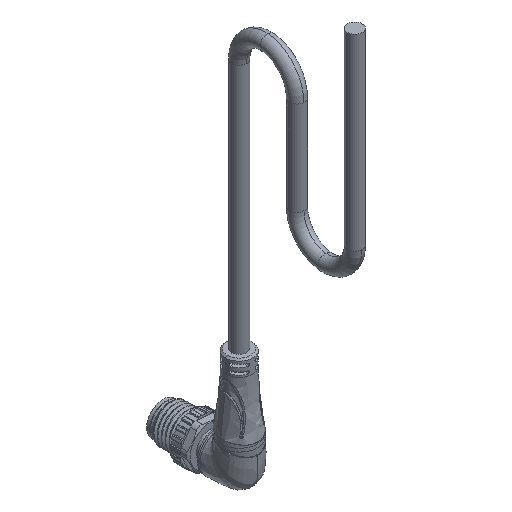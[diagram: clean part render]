
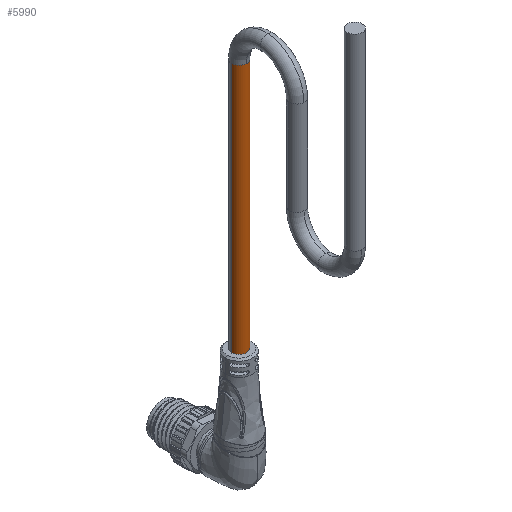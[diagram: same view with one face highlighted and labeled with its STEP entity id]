
A CAD part, isometric view. The second image highlights one B-rep face of the part: STEP entity #5990.
In plain terms, the highlighted cylindrical face has radius 2.4 mm (diameter 4.8 mm), a partial arc.
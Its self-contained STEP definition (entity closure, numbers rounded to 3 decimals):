
#556 = CARTESIAN_POINT ( 'NONE',  ( 0., 40., 0. ) ) ;
#1216 = AXIS2_PLACEMENT_3D ( 'NONE', #1299, #36871, #25204 ) ;
#1299 = CARTESIAN_POINT ( 'NONE',  ( 0., 40., -90. ) ) ;
#2652 = EDGE_CURVE ( 'NONE', #19602, #5843, #24564, .T. ) ;
#5336 = ORIENTED_EDGE ( 'NONE', *, *, #37552, .T. ) ;
#5843 = VERTEX_POINT ( 'NONE', #17528 ) ;
#5990 = ADVANCED_FACE ( 'NONE', ( #33517 ), #19097, .T. ) ;
#7111 = VERTEX_POINT ( 'NONE', #27805 ) ;
#7484 = CIRCLE ( 'NONE', #25778, 2.4 ) ;
#8440 = DIRECTION ( 'NONE',  ( 0., 0., -1. ) ) ;
#11781 = CARTESIAN_POINT ( 'NONE',  ( 0., 40., 0. ) ) ;
#13430 = ORIENTED_EDGE ( 'NONE', *, *, #2652, .T. ) ;
#15501 = CARTESIAN_POINT ( 'NONE',  ( 0., 37.6, 0. ) ) ;
#17487 = ORIENTED_EDGE ( 'NONE', *, *, #38830, .F. ) ;
#17528 = CARTESIAN_POINT ( 'NONE',  ( -2.4, 40., 0. ) ) ;
#18226 = CIRCLE ( 'NONE', #1216, 2.4 ) ;
#18271 = CARTESIAN_POINT ( 'NONE',  ( -2.4, 40., 0. ) ) ;
#19097 = CYLINDRICAL_SURFACE ( 'NONE', #24104, 2.4 ) ;
#19602 = VERTEX_POINT ( 'NONE', #15501 ) ;
#20612 = DIRECTION ( 'NONE',  ( 0., 0., -1. ) ) ;
#21467 = DIRECTION ( 'NONE',  ( 0., 0., -1. ) ) ;
#23592 = CARTESIAN_POINT ( 'NONE',  ( 0., 40., 0. ) ) ;
#23829 = EDGE_CURVE ( 'NONE', #5843, #28848, #25868, .T. ) ;
#24010 = DIRECTION ( 'NONE',  ( 0., 0., -1. ) ) ;
#24104 = AXIS2_PLACEMENT_3D ( 'NONE', #556, #21467, #27999 ) ;
#24564 = CIRCLE ( 'NONE', #26488, 2.4 ) ;
#25204 = DIRECTION ( 'NONE',  ( -1., 0., 0. ) ) ;
#25778 = AXIS2_PLACEMENT_3D ( 'NONE', #23592, #20612, #32679 ) ;
#25868 = LINE ( 'NONE', #18271, #29453 ) ;
#26198 = LINE ( 'NONE', #35274, #27553 ) ;
#26488 = AXIS2_PLACEMENT_3D ( 'NONE', #11781, #8440, #29374 ) ;
#27553 = VECTOR ( 'NONE', #35077, 1000. ) ;
#27585 = VERTEX_POINT ( 'NONE', #29785 ) ;
#27805 = CARTESIAN_POINT ( 'NONE',  ( 2.4, 40., 0. ) ) ;
#27999 = DIRECTION ( 'NONE',  ( -1., 0., 0. ) ) ;
#28848 = VERTEX_POINT ( 'NONE', #33093 ) ;
#29067 = ORIENTED_EDGE ( 'NONE', *, *, #23829, .T. ) ;
#29374 = DIRECTION ( 'NONE',  ( -1., 0., 0. ) ) ;
#29453 = VECTOR ( 'NONE', #24010, 1000. ) ;
#29785 = CARTESIAN_POINT ( 'NONE',  ( 2.4, 40., -90. ) ) ;
#31655 = EDGE_CURVE ( 'NONE', #7111, #27585, #26198, .T. ) ;
#32679 = DIRECTION ( 'NONE',  ( -1., 0., 0. ) ) ;
#33093 = CARTESIAN_POINT ( 'NONE',  ( -2.4, 40., -90. ) ) ;
#33517 = FACE_OUTER_BOUND ( 'NONE', #37077, .T. ) ;
#35077 = DIRECTION ( 'NONE',  ( 0., 0., -1. ) ) ;
#35274 = CARTESIAN_POINT ( 'NONE',  ( 2.4, 40., 0. ) ) ;
#36871 = DIRECTION ( 'NONE',  ( 0., 0., -1. ) ) ;
#37077 = EDGE_LOOP ( 'NONE', ( #37749, #5336, #13430, #29067, #17487 ) ) ;
#37552 = EDGE_CURVE ( 'NONE', #7111, #19602, #7484, .T. ) ;
#37749 = ORIENTED_EDGE ( 'NONE', *, *, #31655, .F. ) ;
#38830 = EDGE_CURVE ( 'NONE', #27585, #28848, #18226, .T. ) ;
